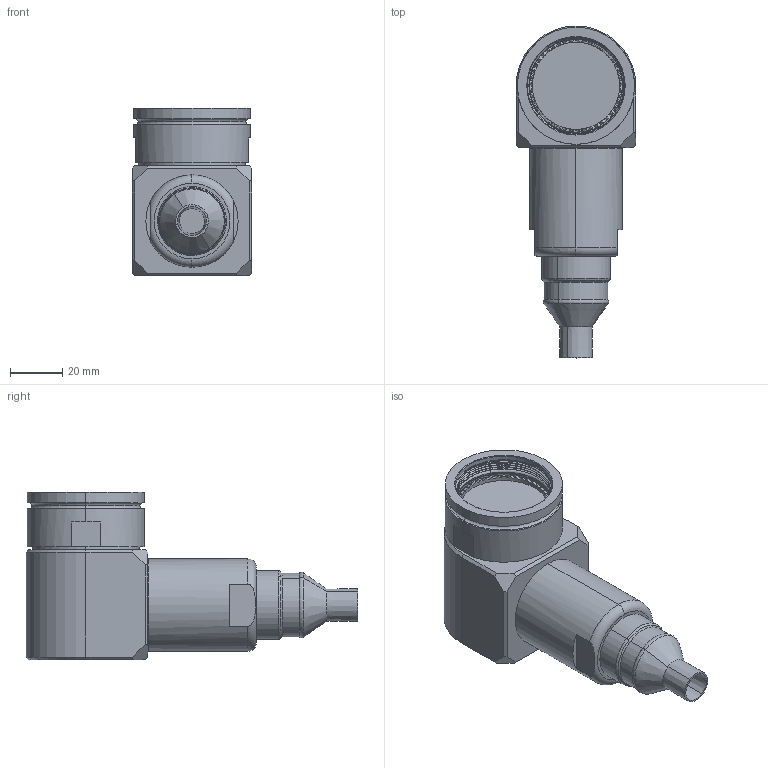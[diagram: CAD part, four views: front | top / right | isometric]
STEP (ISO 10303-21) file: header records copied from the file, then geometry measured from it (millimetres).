
FILE_DESCRIPTION (( 'STEP AP214' ), '1' );
FILE_NAME ('Q38EBSHELL-90X-25-XXXX-HX.STEP', '2025-09-19T15:46:49', ( '' ), ( '' ), 'SwSTEP 2.0', 'SolidWorks 2024', '' );
FILE_SCHEMA (( 'AUTOMOTIVE_DESIGN' ));
Length unit declared in the file: millimetre
Products named in the file (1): Q38EBSHELL-90X-25-XXXX-HX
Bounding box: 45.9 x 127.2 x 64.26 mm (x, y, z)
Volume: 153260.2 mm3; surface area: 27178.2 mm2
Topology: 2 solids, 4 shells, 315 faces, 841 edges, 549 vertices
Faces by surface type: plane 221, cylinder 46, cone 26, torus 14, bspline 8
Entity records: 12313 total; most frequent: CARTESIAN_POINT 4807, ORIENTED_EDGE 1682, DIRECTION 1540, EDGE_CURVE 841, AXIS2_PLACEMENT_3D 617, VERTEX_POINT 549, EDGE_LOOP 332, FACE_OUTER_BOUND 315
